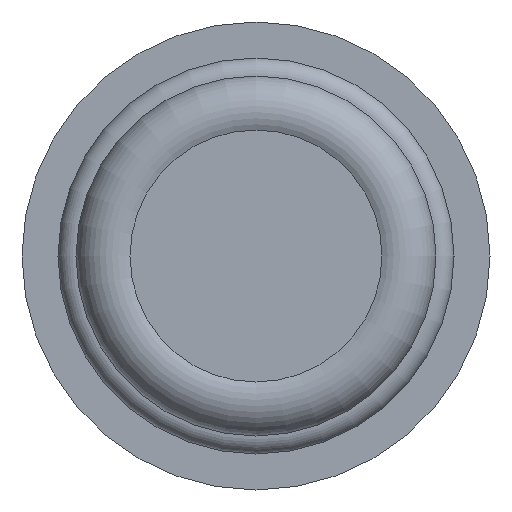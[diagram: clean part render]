
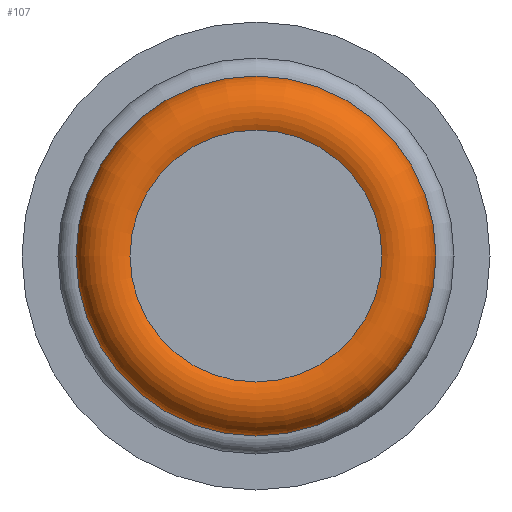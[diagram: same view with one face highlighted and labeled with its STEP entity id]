
A CAD part, left-side view. The second image highlights one B-rep face of the part: STEP entity #107.
In plain terms, the highlighted toroidal (fillet/blend) face has major radius 2 mm and minor radius 0.5 mm.
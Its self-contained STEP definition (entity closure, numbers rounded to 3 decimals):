
#107 = ADVANCED_FACE( '', ( #257, #258 ), #259, .T. );
#257 = FACE_OUTER_BOUND( '', #463, .T. );
#258 = FACE_OUTER_BOUND( '', #464, .T. );
#259 = TOROIDAL_SURFACE( '', #465, 2., 0.5 );
#463 = EDGE_LOOP( '', ( #692 ) );
#464 = EDGE_LOOP( '', ( #693 ) );
#465 = AXIS2_PLACEMENT_3D( '', #694, #695, #696 );
#692 = ORIENTED_EDGE( '', *, *, #956, .T. );
#693 = ORIENTED_EDGE( '', *, *, #951, .F. );
#694 = CARTESIAN_POINT( '', ( -19.567, 0., 0. ) );
#695 = DIRECTION( '', ( -1., 0., 0. ) );
#696 = DIRECTION( '', ( 0., 0., 1. ) );
#951 = EDGE_CURVE( '', #1082, #1082, #1083, .T. );
#956 = EDGE_CURVE( '', #1090, #1090, #1091, .T. );
#1082 = VERTEX_POINT( '', #1244 );
#1083 = CIRCLE( '', #1245, 1.75 );
#1090 = VERTEX_POINT( '', #1252 );
#1091 = CIRCLE( '', #1253, 2.5 );
#1244 = CARTESIAN_POINT( '', ( -20., 0., 1.75 ) );
#1245 = AXIS2_PLACEMENT_3D( '', #1412, #1413, #1414 );
#1252 = CARTESIAN_POINT( '', ( -19.567, 0., 2.5 ) );
#1253 = AXIS2_PLACEMENT_3D( '', #1421, #1422, #1423 );
#1412 = CARTESIAN_POINT( '', ( -20., 0., 0. ) );
#1413 = DIRECTION( '', ( -1., 0., 0. ) );
#1414 = DIRECTION( '', ( 0., 0., 1. ) );
#1421 = CARTESIAN_POINT( '', ( -19.567, 0., 0. ) );
#1422 = DIRECTION( '', ( -1., 0., 0. ) );
#1423 = DIRECTION( '', ( 0., 0., 1. ) );
